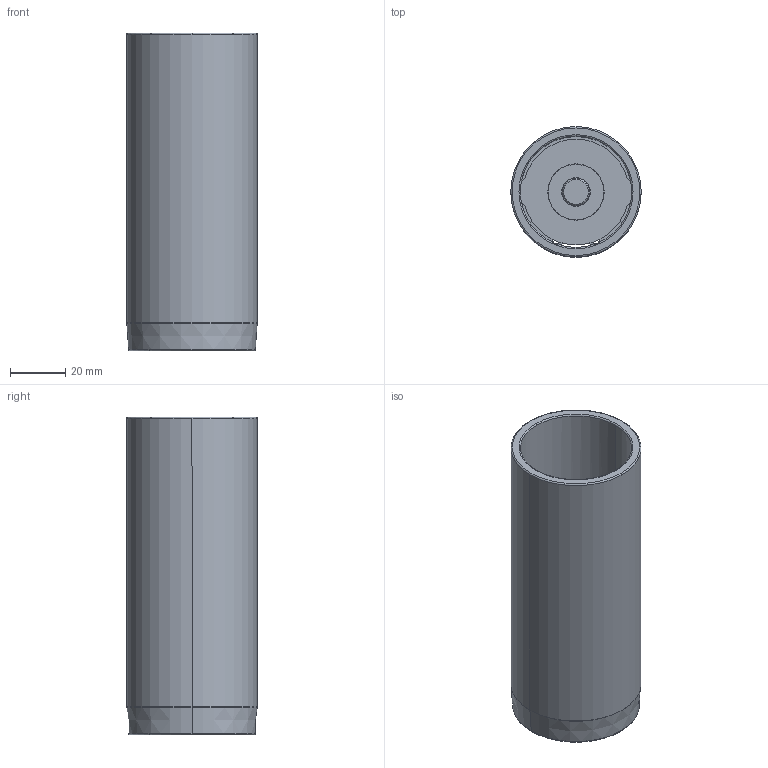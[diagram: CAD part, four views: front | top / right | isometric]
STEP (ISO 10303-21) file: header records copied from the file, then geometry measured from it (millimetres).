
FILE_DESCRIPTION((''),'2;1');
FILE_NAME('C12_040_115.stp','2009-01-28T11:34:55',(''),(''),'Mechanical Desktop 2009','Mechanical Desktop 2009',', , ');
FILE_SCHEMA(('CONFIG_CONTROL_DESIGN'));
Length unit declared in the file: millimetre
Products named in the file (2): Product; blmdl1
Assembly tree (1 placements, depth 2):
  Product
    blmdl1
Bounding box: 47.25 x 47.25 x 115 mm (x, y, z)
Volume: 59604.7 mm3; surface area: 39141 mm2
Topology: 5 solids, 5 shells, 79 faces, 200 edges, 134 vertices
Faces by surface type: cylinder 34, plane 29, torus 10, cone 6
Entity records: 2585 total; most frequent: DIRECTION 480, CARTESIAN_POINT 435, ORIENTED_EDGE 400, AXIS2_PLACEMENT_3D 203, EDGE_CURVE 200, VERTEX_POINT 134, CIRCLE 122, EDGE_LOOP 92
